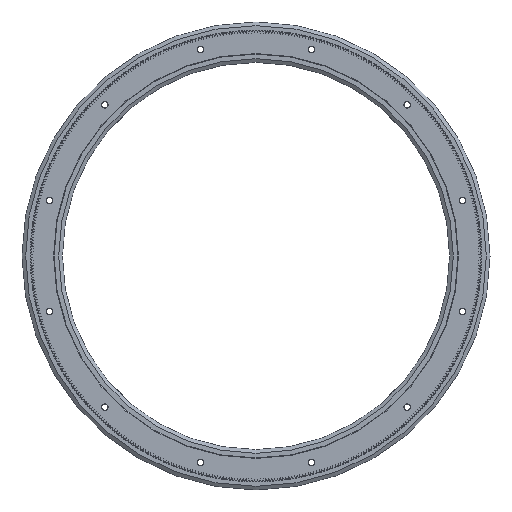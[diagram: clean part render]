
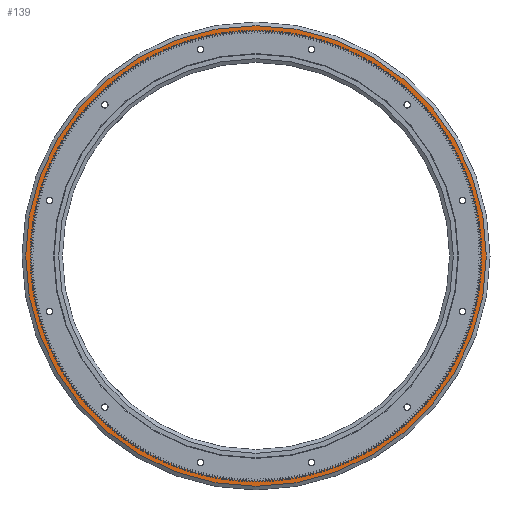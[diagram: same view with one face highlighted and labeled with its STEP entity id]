
A CAD part, front view. The second image highlights one B-rep face of the part: STEP entity #139.
In plain terms, the highlighted planar face has unit normal (0, -1, 0).
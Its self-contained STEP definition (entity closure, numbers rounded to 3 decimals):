
#139 = ADVANCED_FACE( '', ( #3300, #3301 ), #3302, .T. );
#3300 = FACE_OUTER_BOUND( '', #9418, .T. );
#3301 = FACE_BOUND( '', #9419, .T. );
#3302 = PLANE( '', #9420 );
#9418 = EDGE_LOOP( '', ( #17165 ) );
#9419 = EDGE_LOOP( '', ( #17166 ) );
#9420 = AXIS2_PLACEMENT_3D( '', #17167, #17168, #17169 );
#17165 = ORIENTED_EDGE( '', *, *, #41835, .T. );
#17166 = ORIENTED_EDGE( '', *, *, #41836, .F. );
#17167 = CARTESIAN_POINT( '', ( 244.4, 9.5, 0. ) );
#17168 = DIRECTION( '', ( 0., -1., 0. ) );
#17169 = DIRECTION( '', ( 0., 0., -1. ) );
#41835 = EDGE_CURVE( '', #51342, #51342, #51343, .T. );
#41836 = EDGE_CURVE( '', #51344, #51344, #51345, .T. );
#51342 = VERTEX_POINT( '', #65303 );
#51343 = CIRCLE( '', #65304, 252.086 );
#51344 = VERTEX_POINT( '', #65305 );
#51345 = CIRCLE( '', #65306, 244.4 );
#65303 = CARTESIAN_POINT( '', ( 0., 9.5, -252.086 ) );
#65304 = AXIS2_PLACEMENT_3D( '', #84167, #84168, #84169 );
#65305 = CARTESIAN_POINT( '', ( 0., 9.5, -244.4 ) );
#65306 = AXIS2_PLACEMENT_3D( '', #84170, #84171, #84172 );
#84167 = CARTESIAN_POINT( '', ( 0., 9.5, 0. ) );
#84168 = DIRECTION( '', ( 0., -1., 0. ) );
#84169 = DIRECTION( '', ( 0., 0., -1. ) );
#84170 = CARTESIAN_POINT( '', ( 0., 9.5, 0. ) );
#84171 = DIRECTION( '', ( 0., -1., 0. ) );
#84172 = DIRECTION( '', ( 0., 0., -1. ) );
